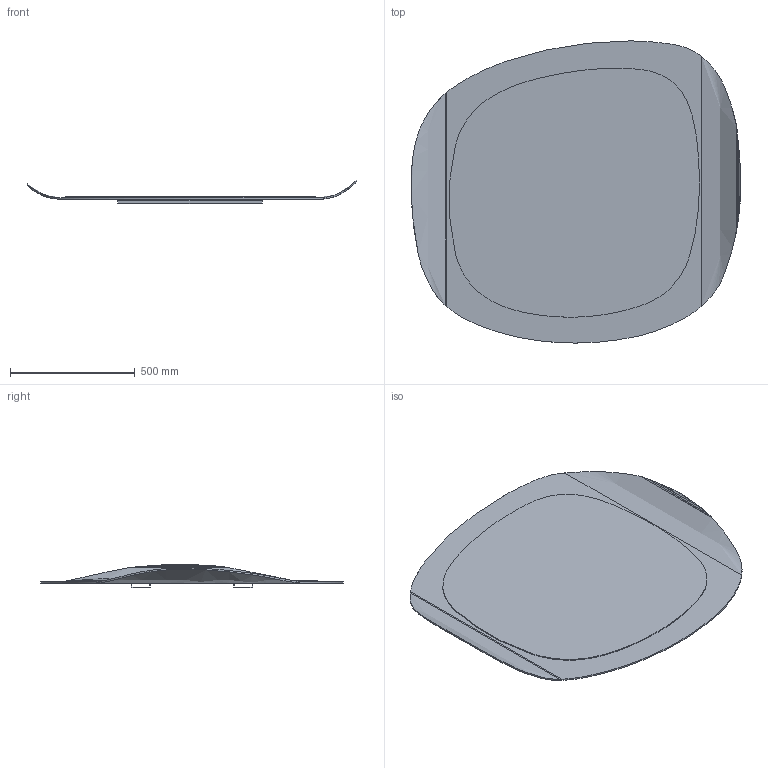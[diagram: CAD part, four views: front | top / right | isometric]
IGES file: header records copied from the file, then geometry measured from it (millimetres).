
Start section: SolidWorks IGES file using analytic representation for surfaces
Global section: file name: Y:\eforma\TECNICO\SOLIDWORKS\E-FORMA\4-SPECCHI\GALLERY\08 modelli 3D web\GAL02-00-SPECCHIO GALLERY 132x122.IGS; native system: SolidWorks 2022; preprocessor: SolidWorks 2022; author: eforma.tech; date: 240802.110405; units: millimetre
Bounding box: 1319.63 x 1210.77 x 94.07 mm (x, y, z)
Volume: 11978282.6 mm3; surface area: 5209514.7 mm2
Topology: 3 solids, 3 shells, 219 faces, 565 edges, 344 vertices
Faces by surface type: revolution 111, plane 108
